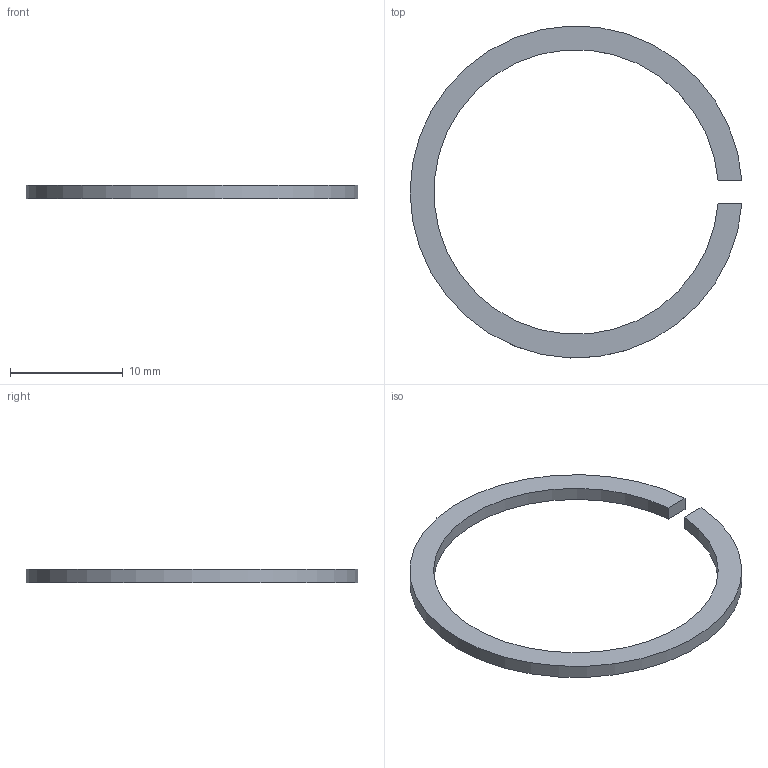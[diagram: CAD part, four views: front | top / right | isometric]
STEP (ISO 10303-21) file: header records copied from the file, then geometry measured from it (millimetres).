
FILE_DESCRIPTION(('Open CASCADE Model'),'2;1');
FILE_NAME('Open CASCADE Shape Model','2026-09-23T04:43:37',('Author'),( 'Open CASCADE'),'Open CASCADE STEP processor 7.9','Open CASCADE 7.9' ,'Unknown');
FILE_SCHEMA(('AUTOMOTIVE_DESIGN { 1 0 10303 214 1 1 1 1 }'));
Length unit declared in the file: millimetre
Products named in the file (1): Open CASCADE STEP translator 7.9 9
Bounding box: 29.37 x 29.38 x 1.2 mm (x, y, z)
Volume: 211.1 mm3; surface area: 557.9 mm2
Topology: 1 solids, 1 shells, 6 faces, 12 edges, 8 vertices
Faces by surface type: plane 4, cylinder 2
Entity records: 310 total; most frequent: CARTESIAN_POINT 67, DIRECTION 38, ORIENTED_EDGE 24, PCURVE 24, DEFINITIONAL_REPRESENTATION 24, B_SPLINE_CURVE_WITH_KNOTS 16, EDGE_CURVE 12, SURFACE_CURVE 12
